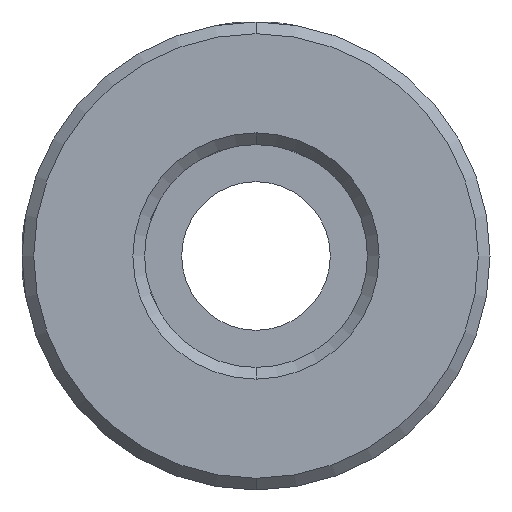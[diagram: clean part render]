
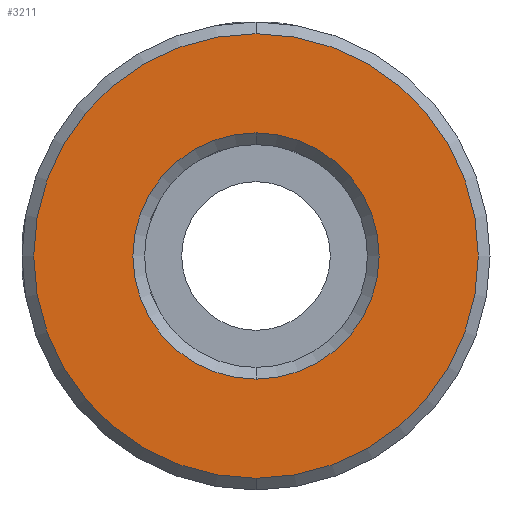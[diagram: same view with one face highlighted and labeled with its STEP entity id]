
A CAD part, front view. The second image highlights one B-rep face of the part: STEP entity #3211.
In plain terms, the highlighted planar face has unit normal (0, -1, 0).
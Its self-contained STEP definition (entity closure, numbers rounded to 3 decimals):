
#92 = AXIS2_PLACEMENT_3D ( 'NONE', #1825, #3286, #1038 ) ;
#169 = EDGE_CURVE ( 'NONE', #3153, #2519, #517, .T. ) ;
#334 = EDGE_LOOP ( 'NONE', ( #2029, #1883 ) ) ;
#410 = FACE_OUTER_BOUND ( 'NONE', #334, .T. ) ;
#517 = CIRCLE ( 'NONE', #3587, 5.263 ) ;
#592 = DIRECTION ( 'NONE',  ( 0., 0., 1. ) ) ;
#640 = DIRECTION ( 'NONE',  ( 0., 1., 0. ) ) ;
#714 = CARTESIAN_POINT ( 'NONE',  ( -10.188, -0.277, 0.046 ) ) ;
#726 = AXIS2_PLACEMENT_3D ( 'NONE', #1973, #3113, #850 ) ;
#850 = DIRECTION ( 'NONE',  ( 0., 0., 1. ) ) ;
#967 = CIRCLE ( 'NONE', #1344, 5.263 ) ;
#1038 = DIRECTION ( 'NONE',  ( 0., 0., 1. ) ) ;
#1055 = EDGE_CURVE ( 'NONE', #2519, #3153, #967, .T. ) ;
#1099 = VERTEX_POINT ( 'NONE', #2254 ) ;
#1102 = CARTESIAN_POINT ( 'NONE',  ( -10.188, -0.277, -5.217 ) ) ;
#1135 = CIRCLE ( 'NONE', #92, 9.5 ) ;
#1160 = VERTEX_POINT ( 'NONE', #3175 ) ;
#1216 = PLANE ( 'NONE',  #3025 ) ;
#1249 = ORIENTED_EDGE ( 'NONE', *, *, #1055, .T. ) ;
#1279 = CARTESIAN_POINT ( 'NONE',  ( -10.188, -0.277, 5.308 ) ) ;
#1344 = AXIS2_PLACEMENT_3D ( 'NONE', #1663, #1420, #592 ) ;
#1420 = DIRECTION ( 'NONE',  ( 0., 1., 0. ) ) ;
#1429 = CARTESIAN_POINT ( 'NONE',  ( -10.188, -0.277, 0.046 ) ) ;
#1521 = DIRECTION ( 'NONE',  ( 0., 0., 1. ) ) ;
#1554 = FACE_BOUND ( 'NONE', #1792, .T. ) ;
#1663 = CARTESIAN_POINT ( 'NONE',  ( -10.188, -0.277, 0.046 ) ) ;
#1792 = EDGE_LOOP ( 'NONE', ( #1249, #2800 ) ) ;
#1825 = CARTESIAN_POINT ( 'NONE',  ( -10.188, -0.277, 0.046 ) ) ;
#1883 = ORIENTED_EDGE ( 'NONE', *, *, #2042, .T. ) ;
#1973 = CARTESIAN_POINT ( 'NONE',  ( -10.188, -0.277, 0.046 ) ) ;
#2029 = ORIENTED_EDGE ( 'NONE', *, *, #3294, .T. ) ;
#2042 = EDGE_CURVE ( 'NONE', #1099, #1160, #1135, .T. ) ;
#2254 = CARTESIAN_POINT ( 'NONE',  ( -10.188, -0.277, -9.454 ) ) ;
#2353 = DIRECTION ( 'NONE',  ( 0., 1., 0. ) ) ;
#2519 = VERTEX_POINT ( 'NONE', #1102 ) ;
#2800 = ORIENTED_EDGE ( 'NONE', *, *, #169, .T. ) ;
#2920 = DIRECTION ( 'NONE',  ( 0., 0., 1. ) ) ;
#2961 = CIRCLE ( 'NONE', #726, 9.5 ) ;
#3025 = AXIS2_PLACEMENT_3D ( 'NONE', #714, #2353, #1521 ) ;
#3113 = DIRECTION ( 'NONE',  ( 0., -1., 0. ) ) ;
#3153 = VERTEX_POINT ( 'NONE', #1279 ) ;
#3175 = CARTESIAN_POINT ( 'NONE',  ( -10.188, -0.277, 9.546 ) ) ;
#3211 = ADVANCED_FACE ( 'NONE', ( #410, #1554 ), #1216, .F. ) ;
#3286 = DIRECTION ( 'NONE',  ( 0., -1., 0. ) ) ;
#3294 = EDGE_CURVE ( 'NONE', #1160, #1099, #2961, .T. ) ;
#3587 = AXIS2_PLACEMENT_3D ( 'NONE', #1429, #640, #2920 ) ;
